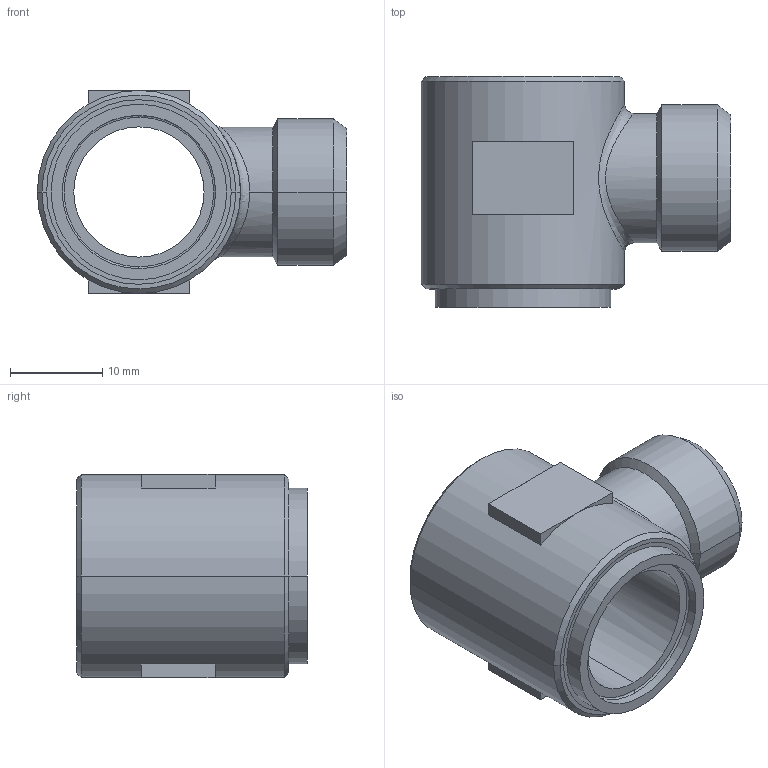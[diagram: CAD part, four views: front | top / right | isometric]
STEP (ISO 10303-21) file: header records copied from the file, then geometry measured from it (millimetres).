
FILE_DESCRIPTION((''),'2;1');
FILE_NAME('101306.stp','2007-10-30T15:42:26',(''),(''),'AutoCAD STEP 2000i','AutoCAD 2000i',', , ');
FILE_SCHEMA(('CONFIG_CONTROL_DESIGN'));
Length unit declared in the file: millimetre
Products named in the file (2): 101306.0; 1094#0
Assembly tree (1 placements, depth 2):
  101306.0
    1094#0
Bounding box: 33.5 x 25 x 22 mm (x, y, z)
Volume: 6471.1 mm3; surface area: 4227.4 mm2
Topology: 1 solids, 1 shells, 55 faces, 127 edges, 79 vertices
Faces by surface type: plane 20, cylinder 16, cone 14, bspline 5
Entity records: 2096 total; most frequent: CARTESIAN_POINT 711, DIRECTION 285, ORIENTED_EDGE 254, EDGE_CURVE 127, AXIS2_PLACEMENT_3D 115, VERTEX_POINT 79, EDGE_LOOP 64, CIRCLE 63
